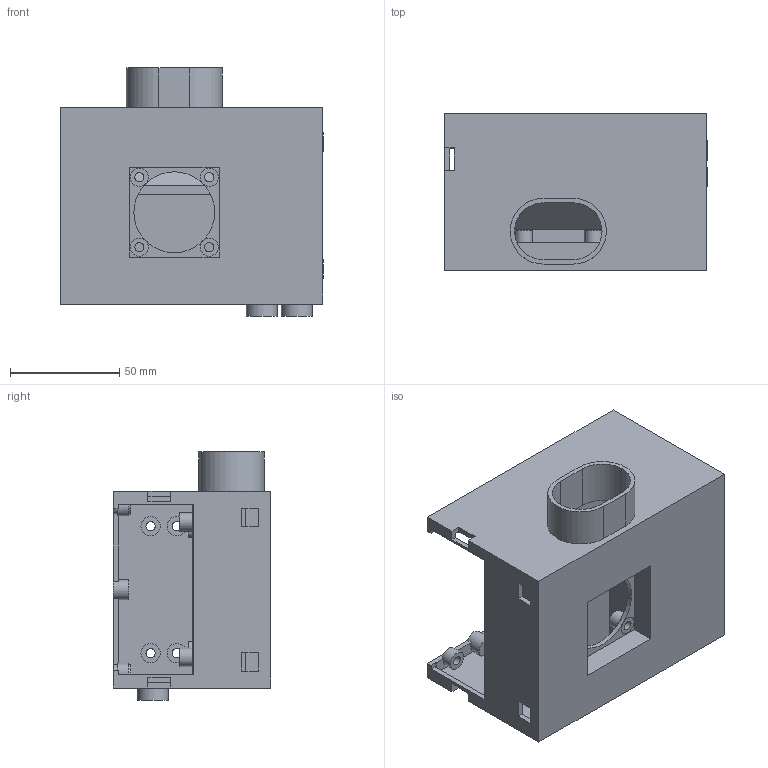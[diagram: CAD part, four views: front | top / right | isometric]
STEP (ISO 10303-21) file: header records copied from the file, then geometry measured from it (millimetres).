
FILE_DESCRIPTION(('Open CASCADE Model'),'2;1');
FILE_NAME('Open CASCADE Shape Model','2026-08-16T15:13:29',('Author'),( 'Open CASCADE'),'Open CASCADE STEP processor 7.9','Open CASCADE 7.9' ,'Unknown');
FILE_SCHEMA(('AUTOMOTIVE_DESIGN { 1 0 10303 214 1 1 1 1 }'));
Length unit declared in the file: millimetre
Products named in the file (1): Open CASCADE STEP translator 7.9 2
Bounding box: 120.2 x 72.1 x 113.5 mm (x, y, z)
Volume: 134979.8 mm3; surface area: 115862.3 mm2
Topology: 1 solids, 1 shells, 197 faces, 477 edges, 318 vertices
Faces by surface type: plane 135, cylinder 62
Full cylindrical faces by diameter (mm): 2 x4, 4.2 x17, 6.2 x4, 8.2 x9, 8.4 x2, 8.5 x2, 8.6 x2, 8.8 x8, 9.2 x5, 14 x4, 37 x1
Entity records: 11781 total; most frequent: CARTESIAN_POINT 2259, DIRECTION 1682, ORIENTED_EDGE 954, PCURVE 954, DEFINITIONAL_REPRESENTATION 954, LINE 833, VECTOR 833, EDGE_CURVE 477
